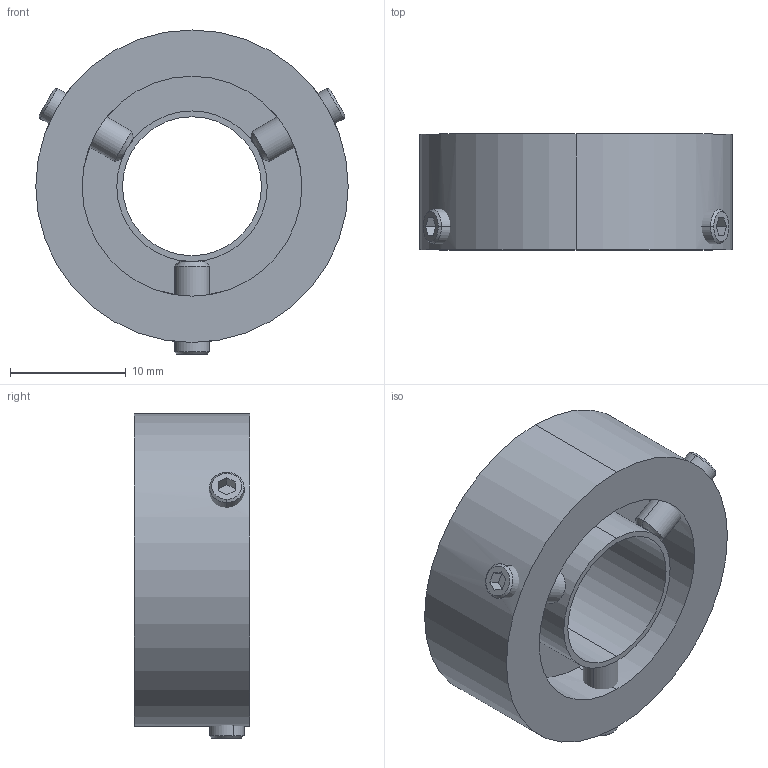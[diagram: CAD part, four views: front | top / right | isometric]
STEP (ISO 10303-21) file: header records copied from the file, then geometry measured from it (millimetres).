
FILE_DESCRIPTION (( 'STEP AP203' ), '1' );
FILE_NAME ('MN01149_Nosilec_24_16_fi12_sestav.STEP', '2017-08-10T09:26:47', ( '' ), ( '' ), 'SwSTEP 2.0', 'SolidWorks 2016', '' );
FILE_SCHEMA (( 'CONFIG_CONTROL_DESIGN' ));
Length unit declared in the file: millimetre
Products named in the file (4): Nosilec_magneta_os_fi12; Magnet_D24-d16-w3p5; navojni_zatic_M3x8_DIN913; MN01149_Nosilec_24_16_fi12_sestav
Assembly tree (5 placements, depth 2):
  MN01149_Nosilec_24_16_fi12_sestav
    Nosilec_magneta_os_fi12
    Magnet_D24-d16-w3p5
    navojni_zatic_M3x8_DIN913  x3
Bounding box: 27 x 10 x 28 mm (x, y, z)
Volume: 3951.6 mm3; surface area: 4315 mm2
Topology: 5 solids, 5 shells, 83 faces, 184 edges, 116 vertices
Faces by surface type: plane 35, cylinder 28, cone 12, torus 8
Entity records: 2192 total; most frequent: CARTESIAN_POINT 489, DIRECTION 282, ORIENTED_EDGE 240, EDGE_CURVE 120, AXIS2_PLACEMENT_3D 117, VERTEX_POINT 76, EDGE_LOOP 66, CIRCLE 56
